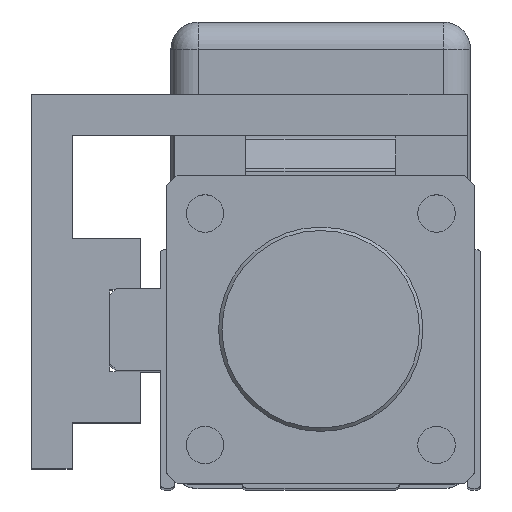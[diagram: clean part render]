
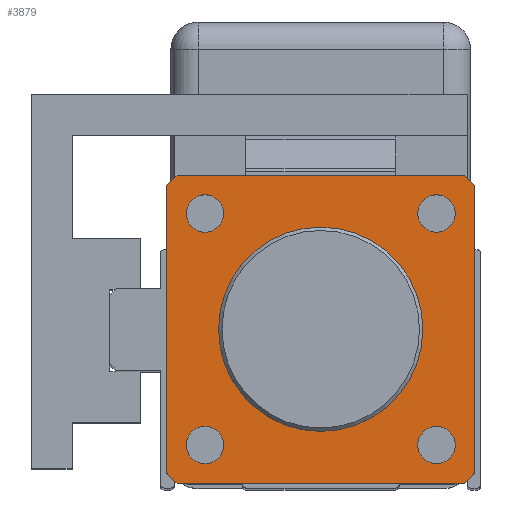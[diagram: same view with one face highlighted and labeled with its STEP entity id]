
A CAD part, top view. The second image highlights one B-rep face of the part: STEP entity #3879.
In plain terms, the highlighted planar face has unit normal (0, 0, 1).
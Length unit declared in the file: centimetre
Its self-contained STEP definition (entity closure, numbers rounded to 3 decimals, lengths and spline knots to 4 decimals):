
#513=VECTOR('',#4923,1.);
#516=VECTOR('',#4927,1.);
#518=VECTOR('',#4930,1.);
#521=VECTOR('',#4934,1.);
#524=VECTOR('',#4938,1.);
#527=VECTOR('',#4942,1.);
#531=VECTOR('',#4947,1.);
#534=VECTOR('',#4951,1.);
#821=LINE('',#6059,#513);
#824=LINE('',#6065,#516);
#826=LINE('',#6069,#518);
#829=LINE('',#6075,#521);
#832=LINE('',#6080,#524);
#835=LINE('',#6087,#527);
#839=LINE('',#6095,#531);
#842=LINE('',#6100,#534);
#1054=CIRCLE('',#4180,1.5);
#1067=CIRCLE('',#4204,0.275);
#1069=CIRCLE('',#4207,0.275);
#1070=CIRCLE('',#4209,0.275);
#1071=CIRCLE('',#4211,0.275);
#1407=VERTEX_POINT('',#6001);
#1434=VERTEX_POINT('',#6060);
#1435=VERTEX_POINT('',#6061);
#1436=VERTEX_POINT('',#6066);
#1437=VERTEX_POINT('',#6070);
#1439=VERTEX_POINT('',#6076);
#1440=VERTEX_POINT('',#6081);
#1443=VERTEX_POINT('',#6088);
#1446=VERTEX_POINT('',#6096);
#1447=VERTEX_POINT('',#6103);
#1449=VERTEX_POINT('',#6108);
#1450=VERTEX_POINT('',#6111);
#1451=VERTEX_POINT('',#6114);
#1851=EDGE_CURVE('',#1407,#1407,#1054,.T.);
#1880=EDGE_CURVE('',#1434,#1435,#821,.T.);
#1883=EDGE_CURVE('',#1435,#1436,#824,.T.);
#1885=EDGE_CURVE('',#1436,#1437,#826,.T.);
#1888=EDGE_CURVE('',#1437,#1439,#829,.T.);
#1891=EDGE_CURVE('',#1439,#1440,#832,.T.);
#1895=EDGE_CURVE('',#1440,#1443,#835,.T.);
#1899=EDGE_CURVE('',#1443,#1446,#839,.T.);
#1902=EDGE_CURVE('',#1446,#1434,#842,.T.);
#1903=EDGE_CURVE('',#1447,#1447,#1067,.T.);
#1905=EDGE_CURVE('',#1449,#1449,#1069,.T.);
#1906=EDGE_CURVE('',#1450,#1450,#1070,.T.);
#1907=EDGE_CURVE('',#1451,#1451,#1071,.T.);
#2709=ORIENTED_EDGE('',*,*,#1851,.T.);
#2710=ORIENTED_EDGE('',*,*,#1907,.F.);
#2711=ORIENTED_EDGE('',*,*,#1906,.F.);
#2712=ORIENTED_EDGE('',*,*,#1905,.F.);
#2713=ORIENTED_EDGE('',*,*,#1903,.F.);
#2714=ORIENTED_EDGE('',*,*,#1880,.F.);
#2715=ORIENTED_EDGE('',*,*,#1902,.F.);
#2716=ORIENTED_EDGE('',*,*,#1899,.F.);
#2717=ORIENTED_EDGE('',*,*,#1895,.F.);
#2718=ORIENTED_EDGE('',*,*,#1891,.F.);
#2719=ORIENTED_EDGE('',*,*,#1888,.F.);
#2720=ORIENTED_EDGE('',*,*,#1885,.F.);
#2721=ORIENTED_EDGE('',*,*,#1883,.F.);
#3328=EDGE_LOOP('',(#2709));
#3329=EDGE_LOOP('',(#2710));
#3330=EDGE_LOOP('',(#2711));
#3331=EDGE_LOOP('',(#2712));
#3332=EDGE_LOOP('',(#2713));
#3333=EDGE_LOOP('',(#2714,#2715,#2716,#2717,#2718,#2719,#2720,#2721));
#3641=FACE_BOUND('',#3328,.T.);
#3642=FACE_BOUND('',#3329,.T.);
#3643=FACE_BOUND('',#3330,.T.);
#3644=FACE_BOUND('',#3331,.T.);
#3645=FACE_BOUND('',#3332,.T.);
#3646=FACE_BOUND('',#3333,.T.);
#3879=ADVANCED_FACE('',(#3641,#3642,#3643,#3644,#3645,#3646),#6483,.T.);
#4180=AXIS2_PLACEMENT_3D('',#6000,#4878,#4879);
#4204=AXIS2_PLACEMENT_3D('',#6102,#4954,#4955);
#4207=AXIS2_PLACEMENT_3D('',#6107,#4960,#4961);
#4209=AXIS2_PLACEMENT_3D('',#6110,#4964,#4965);
#4211=AXIS2_PLACEMENT_3D('',#6113,#4968,#4969);
#4212=AXIS2_PLACEMENT_3D('',#6115,#4970,$);
#4878=DIRECTION('',(0.,0.,-1.));
#4879=DIRECTION('',(1.5,0.,0.));
#4923=DIRECTION('',(1.,0.,0.));
#4927=DIRECTION('',(0.707,-0.707,0.));
#4930=DIRECTION('',(0.,-1.,0.));
#4934=DIRECTION('',(-0.707,-0.707,0.));
#4938=DIRECTION('',(-1.,0.,0.));
#4942=DIRECTION('',(-0.707,0.707,0.));
#4947=DIRECTION('',(0.,1.,0.));
#4951=DIRECTION('',(0.707,0.707,0.));
#4954=DIRECTION('',(0.,0.,1.));
#4955=DIRECTION('',(0.275,0.,0.));
#4960=DIRECTION('',(0.,0.,1.));
#4961=DIRECTION('',(0.275,0.,0.));
#4964=DIRECTION('',(0.,0.,1.));
#4965=DIRECTION('',(0.275,0.,0.));
#4968=DIRECTION('',(0.,0.,1.));
#4969=DIRECTION('',(0.275,0.,0.));
#4970=DIRECTION('',(0.,0.,1.));
#6000=CARTESIAN_POINT('',(0.,0.,18.));
#6001=CARTESIAN_POINT('',(1.5,0.,18.));
#6059=CARTESIAN_POINT('',(2.11,2.26,18.));
#6060=CARTESIAN_POINT('',(-2.11,2.26,18.));
#6061=CARTESIAN_POINT('',(2.11,2.26,18.));
#6065=CARTESIAN_POINT('',(2.26,2.11,18.));
#6066=CARTESIAN_POINT('',(2.26,2.11,18.));
#6069=CARTESIAN_POINT('',(2.26,-2.11,18.));
#6070=CARTESIAN_POINT('',(2.26,-2.11,18.));
#6075=CARTESIAN_POINT('',(2.11,-2.26,18.));
#6076=CARTESIAN_POINT('',(2.11,-2.26,18.));
#6080=CARTESIAN_POINT('',(-2.11,-2.26,18.));
#6081=CARTESIAN_POINT('',(-2.11,-2.26,18.));
#6087=CARTESIAN_POINT('',(-2.26,-2.11,18.));
#6088=CARTESIAN_POINT('',(-2.26,-2.11,18.));
#6095=CARTESIAN_POINT('',(-2.26,2.11,18.));
#6096=CARTESIAN_POINT('',(-2.26,2.11,18.));
#6100=CARTESIAN_POINT('',(-2.11,2.26,18.));
#6102=CARTESIAN_POINT('',(-1.7,-1.7,18.));
#6103=CARTESIAN_POINT('',(-1.425,-1.7,18.));
#6107=CARTESIAN_POINT('',(-1.7,1.7,18.));
#6108=CARTESIAN_POINT('',(-1.425,1.7,18.));
#6110=CARTESIAN_POINT('',(1.7,1.7,18.));
#6111=CARTESIAN_POINT('',(1.975,1.7,18.));
#6113=CARTESIAN_POINT('',(1.7,-1.7,18.));
#6114=CARTESIAN_POINT('',(1.975,-1.7,18.));
#6115=CARTESIAN_POINT('',(0.,0.,18.));
#6483=PLANE('',#4212);
